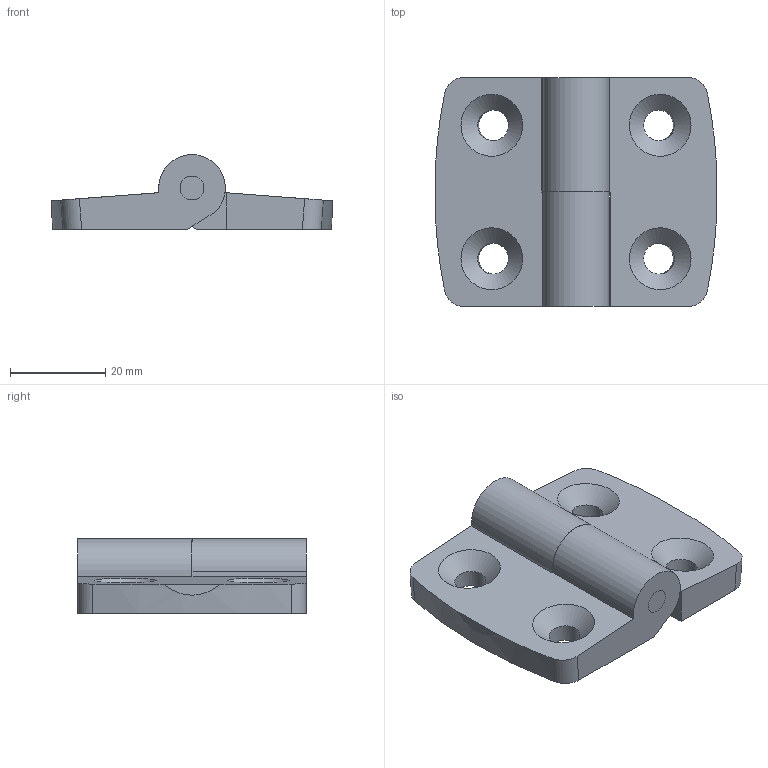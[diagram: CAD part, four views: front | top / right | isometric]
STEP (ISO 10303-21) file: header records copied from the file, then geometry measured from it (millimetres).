
FILE_DESCRIPTION((''),'2;1');
FILE_NAME('E:\catalogue and flyer\Profile catalogue 2015\Accessories ACC info\Accessories ACC step file 31Mar16\ACC-H6048L-8.stp','2016-04-07T13:21:07',('h029'),(''),'Autodesk Inventor 11','Autodesk Inventor 11','');
FILE_SCHEMA(('AUTOMOTIVE_DESIGN { 1 0 10303 214 1 1 1 1 }'));
Length unit declared in the file: millimetre
Products named in the file (3): ACC-H6048-8; Part1; pin
Assembly tree (3 placements, depth 2):
  ACC-H6048-8
    Part1  x2
    pin
Bounding box: 59 x 48 x 15.7 mm (x, y, z)
Volume: 21093.4 mm3; surface area: 9945 mm2
Topology: 3 solids, 3 shells, 45 faces, 117 edges, 78 vertices
Faces by surface type: plane 24, cylinder 13, bspline 8
Full cylindrical faces by diameter (mm): 5 x3
Entity records: 826 total; most frequent: CARTESIAN_POINT 188, DIRECTION 126, ORIENTED_EDGE 104, EDGE_CURVE 52, AXIS2_PLACEMENT_3D 48, VERTEX_POINT 38, EDGE_LOOP 36, VECTOR 30
